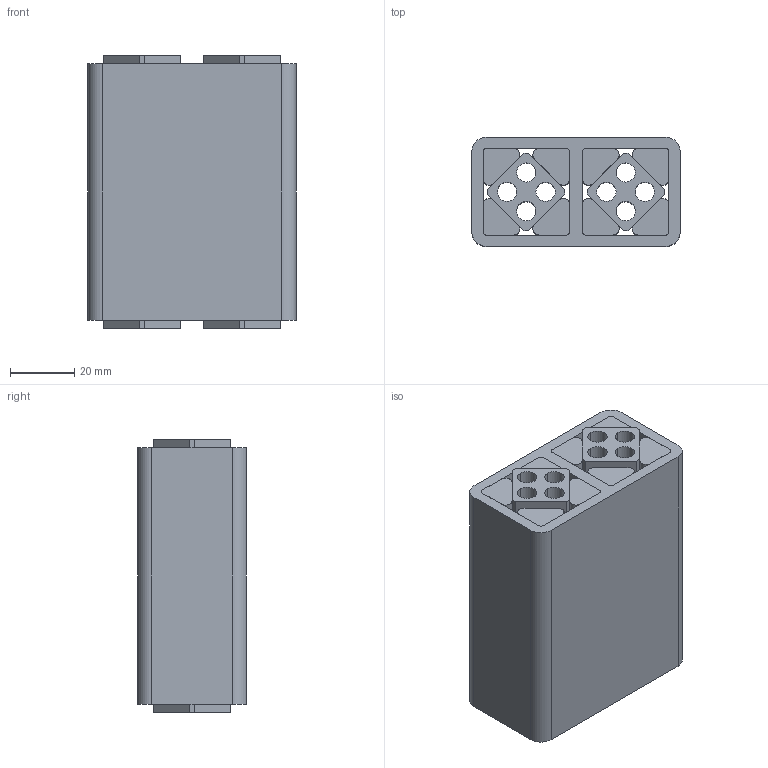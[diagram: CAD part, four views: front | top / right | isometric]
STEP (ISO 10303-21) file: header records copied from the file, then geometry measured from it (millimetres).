
FILE_DESCRIPTION((''),'2;1');
FILE_NAME('D:\ROSTA\Gummifederelemente\3D\DO-A18x80_01041006.stp','2005-02-09T10:48:08',('Administrator'),(''),'Autodesk Inventor 8','Autodesk Inventor 8','');
FILE_SCHEMA(('AUTOMOTIVE_DESIGN { 1 0 10303 214 1 1 1 1 }'));
Length unit declared in the file: millimetre
Products named in the file (4): Baugruppe7; 4.4.3759-009; 4.4.3759-010; 4.4.3759-011
Assembly tree (11 placements, depth 2):
  Baugruppe7
    4.4.3759-009
    4.4.3759-010  x2
    4.4.3759-011  x8
Bounding box: 65 x 34 x 85 mm (x, y, z)
Volume: 153115.1 mm3; surface area: 85232.8 mm2
Topology: 11 solids, 11 shells, 126 faces, 312 edges, 208 vertices
Faces by surface type: plane 74, cylinder 52
Entity records: 1819 total; most frequent: DIRECTION 318, CARTESIAN_POINT 297, ORIENTED_EDGE 276, EDGE_CURVE 138, AXIS2_PLACEMENT_3D 113, VERTEX_POINT 92, VECTOR 92, LINE 92
